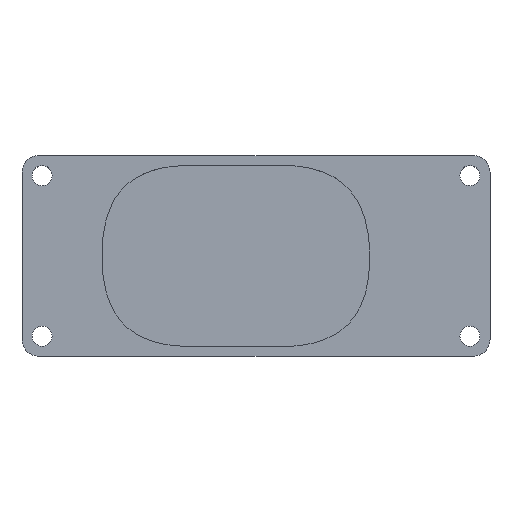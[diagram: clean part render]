
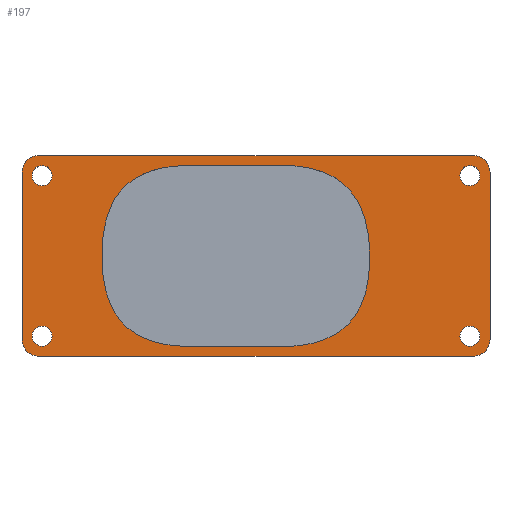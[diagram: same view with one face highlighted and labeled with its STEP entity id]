
A CAD part, top view. The second image highlights one B-rep face of the part: STEP entity #197.
In plain terms, the highlighted planar face has unit normal (0, 0, 1).
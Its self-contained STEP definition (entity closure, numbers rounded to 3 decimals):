
#27=CARTESIAN_POINT('',(30.,0.,13.5));
#28=DIRECTION('',(0.,0.,-1.));
#29=DIRECTION('',(-1.,0.,-0.));
#30=AXIS2_PLACEMENT_3D('',#27,#28,#29);
#31=PLANE('',#30);
#32=CARTESIAN_POINT('',(45.5,7.,13.5));
#33=VERTEX_POINT('',#32);
#34=CARTESIAN_POINT('',(47.,7.,13.5));
#35=DIRECTION('',(0.,0.,-1.));
#36=DIRECTION('',(-1.,0.,-0.));
#37=AXIS2_PLACEMENT_3D('',#34,#35,#36);
#38=CIRCLE('',#37,1.5);
#39=EDGE_CURVE('',#33,#33,#38,.T.);
#40=ORIENTED_EDGE('',*,*,#39,.T.);
#41=EDGE_LOOP('',(#40));
#42=FACE_BOUND('',#41,.T.);
#43=CARTESIAN_POINT('',(45.5,-17.,13.5));
#44=VERTEX_POINT('',#43);
#45=CARTESIAN_POINT('',(47.,-17.,13.5));
#46=DIRECTION('',(0.,0.,-1.));
#47=DIRECTION('',(-1.,0.,-0.));
#48=AXIS2_PLACEMENT_3D('',#45,#46,#47);
#49=CIRCLE('',#48,1.5);
#50=EDGE_CURVE('',#44,#44,#49,.T.);
#51=ORIENTED_EDGE('',*,*,#50,.T.);
#52=EDGE_LOOP('',(#51));
#53=FACE_BOUND('',#52,.T.);
#54=CARTESIAN_POINT('',(-18.5,7.,13.5));
#55=VERTEX_POINT('',#54);
#56=CARTESIAN_POINT('',(-17.,7.,13.5));
#57=DIRECTION('',(0.,0.,-1.));
#58=DIRECTION('',(-1.,0.,-0.));
#59=AXIS2_PLACEMENT_3D('',#56,#57,#58);
#60=CIRCLE('',#59,1.5);
#61=EDGE_CURVE('',#55,#55,#60,.T.);
#62=ORIENTED_EDGE('',*,*,#61,.T.);
#63=EDGE_LOOP('',(#62));
#64=FACE_BOUND('',#63,.T.);
#65=CARTESIAN_POINT('',(-18.5,-17.,13.5));
#66=VERTEX_POINT('',#65);
#67=CARTESIAN_POINT('',(-17.,-17.,13.5));
#68=DIRECTION('',(0.,0.,-1.));
#69=DIRECTION('',(-1.,0.,-0.));
#70=AXIS2_PLACEMENT_3D('',#67,#68,#69);
#71=CIRCLE('',#70,1.5);
#72=EDGE_CURVE('',#66,#66,#71,.T.);
#73=ORIENTED_EDGE('',*,*,#72,.T.);
#74=EDGE_LOOP('',(#73));
#75=FACE_BOUND('',#74,.T.);
#76=CARTESIAN_POINT('',(47.5,-20.,13.5));
#77=VERTEX_POINT('',#76);
#78=CARTESIAN_POINT('',(-17.5,-20.,13.5));
#79=VERTEX_POINT('',#78);
#80=CARTESIAN_POINT('',(47.5,-20.,13.5));
#81=DIRECTION('',(-1.,0.,-0.));
#82=VECTOR('',#81,65.);
#83=LINE('',#80,#82);
#84=EDGE_CURVE('',#77,#79,#83,.T.);
#85=ORIENTED_EDGE('',*,*,#84,.F.);
#86=CARTESIAN_POINT('',(50.,-17.5,13.5));
#87=VERTEX_POINT('',#86);
#88=CARTESIAN_POINT('',(47.5,-17.5,13.5));
#89=DIRECTION('',(-0.,-0.,1.));
#90=DIRECTION('',(-1.,0.,-0.));
#91=AXIS2_PLACEMENT_3D('',#88,#89,#90);
#92=CIRCLE('',#91,2.5);
#93=EDGE_CURVE('',#77,#87,#92,.T.);
#94=ORIENTED_EDGE('',*,*,#93,.T.);
#95=CARTESIAN_POINT('',(50.,7.5,13.5));
#96=VERTEX_POINT('',#95);
#97=CARTESIAN_POINT('',(50.,7.5,13.5));
#98=DIRECTION('',(0.,-1.,0.));
#99=VECTOR('',#98,25.);
#100=LINE('',#97,#99);
#101=EDGE_CURVE('',#96,#87,#100,.T.);
#102=ORIENTED_EDGE('',*,*,#101,.F.);
#103=CARTESIAN_POINT('',(47.5,10.,13.5));
#104=VERTEX_POINT('',#103);
#105=CARTESIAN_POINT('',(47.5,7.5,13.5));
#106=DIRECTION('',(-0.,-0.,1.));
#107=DIRECTION('',(-1.,0.,-0.));
#108=AXIS2_PLACEMENT_3D('',#105,#106,#107);
#109=CIRCLE('',#108,2.5);
#110=EDGE_CURVE('',#96,#104,#109,.T.);
#111=ORIENTED_EDGE('',*,*,#110,.T.);
#112=CARTESIAN_POINT('',(-17.5,10.,13.5));
#113=VERTEX_POINT('',#112);
#114=CARTESIAN_POINT('',(47.5,10.,13.5));
#115=DIRECTION('',(-1.,0.,-0.));
#116=VECTOR('',#115,65.);
#117=LINE('',#114,#116);
#118=EDGE_CURVE('',#104,#113,#117,.T.);
#119=ORIENTED_EDGE('',*,*,#118,.T.);
#120=CARTESIAN_POINT('',(-20.,7.5,13.5));
#121=VERTEX_POINT('',#120);
#122=CARTESIAN_POINT('',(-17.5,7.5,13.5));
#123=DIRECTION('',(-0.,-0.,1.));
#124=DIRECTION('',(-1.,0.,-0.));
#125=AXIS2_PLACEMENT_3D('',#122,#123,#124);
#126=CIRCLE('',#125,2.5);
#127=EDGE_CURVE('',#113,#121,#126,.T.);
#128=ORIENTED_EDGE('',*,*,#127,.T.);
#129=CARTESIAN_POINT('',(-20.,-17.5,13.5));
#130=VERTEX_POINT('',#129);
#131=CARTESIAN_POINT('',(-20.,7.5,13.5));
#132=DIRECTION('',(0.,-1.,0.));
#133=VECTOR('',#132,25.);
#134=LINE('',#131,#133);
#135=EDGE_CURVE('',#121,#130,#134,.T.);
#136=ORIENTED_EDGE('',*,*,#135,.T.);
#137=CARTESIAN_POINT('',(-17.5,-17.5,13.5));
#138=DIRECTION('',(-0.,-0.,1.));
#139=DIRECTION('',(-1.,0.,-0.));
#140=AXIS2_PLACEMENT_3D('',#137,#138,#139);
#141=CIRCLE('',#140,2.5);
#142=EDGE_CURVE('',#130,#79,#141,.T.);
#143=ORIENTED_EDGE('',*,*,#142,.T.);
#144=EDGE_LOOP('',(#85,#94,#102,#111,#119,#128,#136,#143));
#145=FACE_BOUND('',#144,.T.);
#146=CARTESIAN_POINT('',(4.,8.5,13.5));
#147=VERTEX_POINT('',#146);
#148=CARTESIAN_POINT('',(20.5,8.5,13.5));
#149=VERTEX_POINT('',#148);
#150=CARTESIAN_POINT('',(4.,8.5,13.5));
#151=DIRECTION('',(1.,-0.,0.));
#152=VECTOR('',#151,16.5);
#153=LINE('',#150,#152);
#154=EDGE_CURVE('',#147,#149,#153,.T.);
#155=ORIENTED_EDGE('',*,*,#154,.T.);
#156=CARTESIAN_POINT('',(32.,-5.5,13.5));
#157=VERTEX_POINT('',#156);
#158=CARTESIAN_POINT('',(20.5,8.5,13.5));
#159=CARTESIAN_POINT('',(26.09,8.122,13.5));
#160=CARTESIAN_POINT('',(32.078,1.373,13.5));
#161=CARTESIAN_POINT('',(32.,-5.5,13.5));
#162=B_SPLINE_CURVE_WITH_KNOTS('',2,(#158,#159,#160,#161),.UNSPECIFIED.,.F.,.F.,(3,1,3),(0.,0.48,1.),.UNSPECIFIED.);
#163=EDGE_CURVE('',#149,#157,#162,.T.);
#164=ORIENTED_EDGE('',*,*,#163,.T.);
#165=CARTESIAN_POINT('',(20.5,-18.5,13.5));
#166=VERTEX_POINT('',#165);
#167=CARTESIAN_POINT('',(32.,-5.5,13.5));
#168=CARTESIAN_POINT('',(31.984,-17.741,13.5));
#169=CARTESIAN_POINT('',(20.5,-18.5,13.5));
#170=B_SPLINE_CURVE_WITH_KNOTS('',2,(#167,#168,#169),.UNSPECIFIED.,.F.,.F.,(3,3),(0.,1.),.UNSPECIFIED.);
#171=EDGE_CURVE('',#157,#166,#170,.T.);
#172=ORIENTED_EDGE('',*,*,#171,.T.);
#173=CARTESIAN_POINT('',(4.,-18.5,13.5));
#174=VERTEX_POINT('',#173);
#175=CARTESIAN_POINT('',(4.,-18.5,13.5));
#176=DIRECTION('',(1.,-0.,0.));
#177=VECTOR('',#176,16.5);
#178=LINE('',#175,#177);
#179=EDGE_CURVE('',#174,#166,#178,.T.);
#180=ORIENTED_EDGE('',*,*,#179,.F.);
#181=CARTESIAN_POINT('',(-8.,-5.,13.5));
#182=VERTEX_POINT('',#181);
#183=CARTESIAN_POINT('',(-8.,-5.,13.5));
#184=CARTESIAN_POINT('',(-8.236,-17.989,13.5));
#185=CARTESIAN_POINT('',(4.,-18.5,13.5));
#186=B_SPLINE_CURVE_WITH_KNOTS('',2,(#183,#184,#185),.UNSPECIFIED.,.F.,.F.,(3,3),(0.,1.),.UNSPECIFIED.);
#187=EDGE_CURVE('',#182,#174,#186,.T.);
#188=ORIENTED_EDGE('',*,*,#187,.F.);
#189=CARTESIAN_POINT('',(-8.,-5.,13.5));
#190=CARTESIAN_POINT('',(-8.236,7.989,13.5));
#191=CARTESIAN_POINT('',(4.,8.5,13.5));
#192=B_SPLINE_CURVE_WITH_KNOTS('',2,(#189,#190,#191),.UNSPECIFIED.,.F.,.F.,(3,3),(0.,1.),.UNSPECIFIED.);
#193=EDGE_CURVE('',#182,#147,#192,.T.);
#194=ORIENTED_EDGE('',*,*,#193,.T.);
#195=EDGE_LOOP('',(#155,#164,#172,#180,#188,#194));
#196=FACE_BOUND('',#195,.T.);
#197=ADVANCED_FACE('',(#42,#53,#64,#75,#145,#196),#31,.F.);
